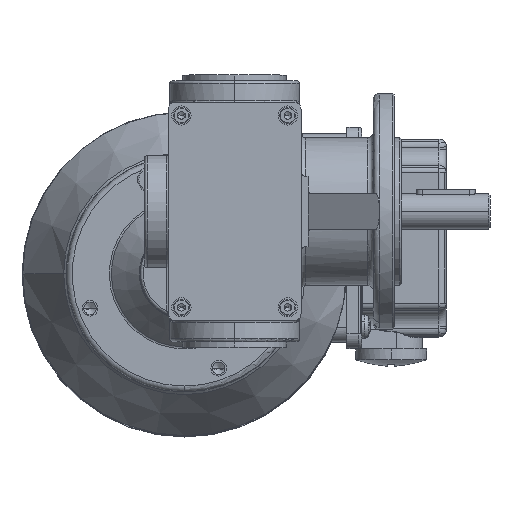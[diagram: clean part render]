
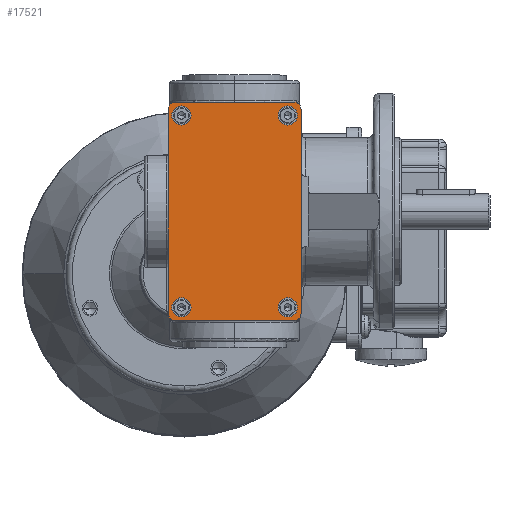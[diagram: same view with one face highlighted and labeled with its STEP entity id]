
A CAD part, top view. The second image highlights one B-rep face of the part: STEP entity #17521.
In plain terms, the highlighted planar face has unit normal (0, 0, 1) as drawn and (0, 1, 0) by its records, which use the part's own axes.
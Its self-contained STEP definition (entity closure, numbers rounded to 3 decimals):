
#78 = DIRECTION ( 'NONE',  ( 0., 1., 0. ) ) ;
#225 = AXIS2_PLACEMENT_3D ( 'NONE', #11180, #78, #6919 ) ;
#540 = EDGE_CURVE ( 'NONE', #19225, #15173, #10774, .T. ) ;
#562 = ORIENTED_EDGE ( 'NONE', *, *, #10822, .F. ) ;
#684 = CIRCLE ( 'NONE', #13771, 2.5 ) ;
#803 = CARTESIAN_POINT ( 'NONE',  ( -32.5, 8., 14.75 ) ) ;
#845 = EDGE_LOOP ( 'NONE', ( #23245, #998 ) ) ;
#998 = ORIENTED_EDGE ( 'NONE', *, *, #18178, .F. ) ;
#1079 = VERTEX_POINT ( 'NONE', #4732 ) ;
#1103 = CARTESIAN_POINT ( 'NONE',  ( -34.5, 8., -22.5 ) ) ;
#1280 = ORIENTED_EDGE ( 'NONE', *, *, #540, .T. ) ;
#1572 = FACE_OUTER_BOUND ( 'NONE', #27368, .T. ) ;
#2012 = AXIS2_PLACEMENT_3D ( 'NONE', #4451, #17734, #25689 ) ;
#2135 = DIRECTION ( 'NONE',  ( 0., 1., 0. ) ) ;
#2426 = CARTESIAN_POINT ( 'NONE',  ( -32.5, 8., 18. ) ) ;
#2534 = VERTEX_POINT ( 'NONE', #3854 ) ;
#2872 = CARTESIAN_POINT ( 'NONE',  ( 32.5, 8., -21.25 ) ) ;
#3075 = VECTOR ( 'NONE', #19803, 1000. ) ;
#3285 = EDGE_CURVE ( 'NONE', #6180, #16476, #8716, .T. ) ;
#3341 = CIRCLE ( 'NONE', #7058, 3.25 ) ;
#3394 = VERTEX_POINT ( 'NONE', #4769 ) ;
#3468 = FACE_BOUND ( 'NONE', #845, .T. ) ;
#3851 = AXIS2_PLACEMENT_3D ( 'NONE', #18496, #23170, #5071 ) ;
#3854 = CARTESIAN_POINT ( 'NONE',  ( -32.5, 8., -14.75 ) ) ;
#4044 = LINE ( 'NONE', #16904, #8741 ) ;
#4159 = EDGE_LOOP ( 'NONE', ( #27347, #9096 ) ) ;
#4434 = VERTEX_POINT ( 'NONE', #2872 ) ;
#4451 = CARTESIAN_POINT ( 'NONE',  ( -32.5, 8., 18. ) ) ;
#4467 = VERTEX_POINT ( 'NONE', #26243 ) ;
#4732 = CARTESIAN_POINT ( 'NONE',  ( 32.5, 8., 14.75 ) ) ;
#4769 = CARTESIAN_POINT ( 'NONE',  ( -32.5, 8., -21.25 ) ) ;
#4775 = EDGE_CURVE ( 'NONE', #22119, #26213, #11183, .T. ) ;
#4811 = VERTEX_POINT ( 'NONE', #803 ) ;
#4842 = DIRECTION ( 'NONE',  ( 0., 1., 0. ) ) ;
#5071 = DIRECTION ( 'NONE',  ( 0., 0., 1. ) ) ;
#5252 = EDGE_CURVE ( 'NONE', #26213, #6180, #17492, .T. ) ;
#5925 = CIRCLE ( 'NONE', #26026, 3.25 ) ;
#6007 = CARTESIAN_POINT ( 'NONE',  ( 32.5, 8., 18. ) ) ;
#6180 = VERTEX_POINT ( 'NONE', #14244 ) ;
#6340 = DIRECTION ( 'NONE',  ( 0., 0., 1. ) ) ;
#6375 = CIRCLE ( 'NONE', #25050, 3.25 ) ;
#6412 = DIRECTION ( 'NONE',  ( 0., 0., 1. ) ) ;
#6555 = DIRECTION ( 'NONE',  ( 0., 1., 0. ) ) ;
#6637 = ORIENTED_EDGE ( 'NONE', *, *, #13871, .T. ) ;
#6919 = DIRECTION ( 'NONE',  ( 0., 0., 1. ) ) ;
#7058 = AXIS2_PLACEMENT_3D ( 'NONE', #25467, #12042, #10148 ) ;
#7114 = AXIS2_PLACEMENT_3D ( 'NONE', #2426, #2135, #6340 ) ;
#8312 = ORIENTED_EDGE ( 'NONE', *, *, #18296, .T. ) ;
#8716 = LINE ( 'NONE', #28878, #3075 ) ;
#8734 = EDGE_CURVE ( 'NONE', #20675, #4434, #6375, .T. ) ;
#8741 = VECTOR ( 'NONE', #23457, 1000. ) ;
#8980 = CARTESIAN_POINT ( 'NONE',  ( 37., 8., -22.5 ) ) ;
#9073 = CARTESIAN_POINT ( 'NONE',  ( 32.5, 8., -18. ) ) ;
#9096 = ORIENTED_EDGE ( 'NONE', *, *, #11074, .F. ) ;
#10148 = DIRECTION ( 'NONE',  ( 0., 0., 1. ) ) ;
#10334 = DIRECTION ( 'NONE',  ( 0., 0., 1. ) ) ;
#10472 = ORIENTED_EDGE ( 'NONE', *, *, #12388, .F. ) ;
#10524 = EDGE_CURVE ( 'NONE', #24139, #19225, #684, .T. ) ;
#10543 = DIRECTION ( 'NONE',  ( 0., 1., 0. ) ) ;
#10632 = AXIS2_PLACEMENT_3D ( 'NONE', #9073, #13630, #18118 ) ;
#10774 = LINE ( 'NONE', #17342, #27844 ) ;
#10822 = EDGE_CURVE ( 'NONE', #24456, #4811, #15476, .T. ) ;
#11074 = EDGE_CURVE ( 'NONE', #1079, #21592, #3341, .T. ) ;
#11180 = CARTESIAN_POINT ( 'NONE',  ( 34.5, 8., 20. ) ) ;
#11183 = LINE ( 'NONE', #8980, #19555 ) ;
#11309 = CARTESIAN_POINT ( 'NONE',  ( -37., 8., 20. ) ) ;
#12042 = DIRECTION ( 'NONE',  ( 0., 1., 0. ) ) ;
#12388 = EDGE_CURVE ( 'NONE', #4811, #24456, #15994, .T. ) ;
#12887 = CARTESIAN_POINT ( 'NONE',  ( -32.5, 8., -18. ) ) ;
#12977 = DIRECTION ( 'NONE',  ( 1., 0., 0. ) ) ;
#13032 = EDGE_CURVE ( 'NONE', #16476, #4467, #15576, .T. ) ;
#13630 = DIRECTION ( 'NONE',  ( 0., 1., 0. ) ) ;
#13771 = AXIS2_PLACEMENT_3D ( 'NONE', #23507, #6555, #6412 ) ;
#13801 = CARTESIAN_POINT ( 'NONE',  ( 37., 8., -20. ) ) ;
#13871 = EDGE_CURVE ( 'NONE', #15173, #22119, #19775, .T. ) ;
#14086 = CARTESIAN_POINT ( 'NONE',  ( 32.5, 8., -14.75 ) ) ;
#14175 = DIRECTION ( 'NONE',  ( 0., 0., 1. ) ) ;
#14244 = CARTESIAN_POINT ( 'NONE',  ( 34.5, 8., -22.5 ) ) ;
#14374 = CIRCLE ( 'NONE', #10632, 3.25 ) ;
#14377 = CARTESIAN_POINT ( 'NONE',  ( 32.5, 8., 21.25 ) ) ;
#14948 = DIRECTION ( 'NONE',  ( 0., 0., 1. ) ) ;
#15173 = VERTEX_POINT ( 'NONE', #16024 ) ;
#15476 = CIRCLE ( 'NONE', #2012, 3.25 ) ;
#15576 = CIRCLE ( 'NONE', #22074, 2.5 ) ;
#15710 = ORIENTED_EDGE ( 'NONE', *, *, #8734, .F. ) ;
#15957 = CIRCLE ( 'NONE', #25274, 3.25 ) ;
#15994 = CIRCLE ( 'NONE', #7114, 3.25 ) ;
#16024 = CARTESIAN_POINT ( 'NONE',  ( 34.5, 8., 22.5 ) ) ;
#16476 = VERTEX_POINT ( 'NONE', #1103 ) ;
#16758 = FACE_BOUND ( 'NONE', #4159, .T. ) ;
#16899 = PLANE ( 'NONE',  #22673 ) ;
#16904 = CARTESIAN_POINT ( 'NONE',  ( -37., 8., -22.5 ) ) ;
#17342 = CARTESIAN_POINT ( 'NONE',  ( -37., 8., 22.5 ) ) ;
#17492 = CIRCLE ( 'NONE', #25903, 2.5 ) ;
#17521 = ADVANCED_FACE ( 'NONE', ( #26112, #16758, #25955, #3468, #1572 ), #16899, .T. ) ;
#17734 = DIRECTION ( 'NONE',  ( 0., 1., 0. ) ) ;
#17880 = DIRECTION ( 'NONE',  ( 0., 0., -1. ) ) ;
#18118 = DIRECTION ( 'NONE',  ( 0., 0., 1. ) ) ;
#18178 = EDGE_CURVE ( 'NONE', #3394, #2534, #5925, .T. ) ;
#18225 = CARTESIAN_POINT ( 'NONE',  ( -32.5, 8., 21.25 ) ) ;
#18296 = EDGE_CURVE ( 'NONE', #4467, #24139, #4044, .T. ) ;
#18496 = CARTESIAN_POINT ( 'NONE',  ( -32.5, 8., -18. ) ) ;
#19150 = ORIENTED_EDGE ( 'NONE', *, *, #3285, .T. ) ;
#19225 = VERTEX_POINT ( 'NONE', #26601 ) ;
#19555 = VECTOR ( 'NONE', #17880, 1000. ) ;
#19775 = CIRCLE ( 'NONE', #225, 2.5 ) ;
#19803 = DIRECTION ( 'NONE',  ( -1., 0., 0. ) ) ;
#20675 = VERTEX_POINT ( 'NONE', #14086 ) ;
#21552 = EDGE_LOOP ( 'NONE', ( #562, #10472 ) ) ;
#21592 = VERTEX_POINT ( 'NONE', #14377 ) ;
#21767 = DIRECTION ( 'NONE',  ( 0., 1., 0. ) ) ;
#21836 = ORIENTED_EDGE ( 'NONE', *, *, #10524, .T. ) ;
#21933 = EDGE_CURVE ( 'NONE', #4434, #20675, #14374, .T. ) ;
#22074 = AXIS2_PLACEMENT_3D ( 'NONE', #23484, #28044, #14175 ) ;
#22119 = VERTEX_POINT ( 'NONE', #27461 ) ;
#22512 = CARTESIAN_POINT ( 'NONE',  ( 34.5, 8., -20. ) ) ;
#22673 = AXIS2_PLACEMENT_3D ( 'NONE', #25811, #23752, #10334 ) ;
#23170 = DIRECTION ( 'NONE',  ( 0., 1., 0. ) ) ;
#23245 = ORIENTED_EDGE ( 'NONE', *, *, #28529, .F. ) ;
#23457 = DIRECTION ( 'NONE',  ( 0., 0., 1. ) ) ;
#23484 = CARTESIAN_POINT ( 'NONE',  ( -34.5, 8., -20. ) ) ;
#23507 = CARTESIAN_POINT ( 'NONE',  ( -34.5, 8., 20. ) ) ;
#23752 = DIRECTION ( 'NONE',  ( 0., 1., 0. ) ) ;
#24139 = VERTEX_POINT ( 'NONE', #11309 ) ;
#24278 = ORIENTED_EDGE ( 'NONE', *, *, #5252, .T. ) ;
#24456 = VERTEX_POINT ( 'NONE', #18225 ) ;
#24581 = EDGE_LOOP ( 'NONE', ( #15710, #24930 ) ) ;
#24930 = ORIENTED_EDGE ( 'NONE', *, *, #21933, .F. ) ;
#24997 = DIRECTION ( 'NONE',  ( 0., 0., 1. ) ) ;
#25050 = AXIS2_PLACEMENT_3D ( 'NONE', #28444, #25824, #25974 ) ;
#25274 = AXIS2_PLACEMENT_3D ( 'NONE', #6007, #10543, #14948 ) ;
#25467 = CARTESIAN_POINT ( 'NONE',  ( 32.5, 8., 18. ) ) ;
#25689 = DIRECTION ( 'NONE',  ( 0., 0., 1. ) ) ;
#25787 = CIRCLE ( 'NONE', #3851, 3.25 ) ;
#25811 = CARTESIAN_POINT ( 'NONE',  ( 0., 8., 0. ) ) ;
#25824 = DIRECTION ( 'NONE',  ( 0., 1., 0. ) ) ;
#25903 = AXIS2_PLACEMENT_3D ( 'NONE', #22512, #4842, #24997 ) ;
#25955 = FACE_BOUND ( 'NONE', #21552, .T. ) ;
#25974 = DIRECTION ( 'NONE',  ( 0., 0., 1. ) ) ;
#26000 = ORIENTED_EDGE ( 'NONE', *, *, #13032, .T. ) ;
#26026 = AXIS2_PLACEMENT_3D ( 'NONE', #12887, #21767, #27023 ) ;
#26112 = FACE_BOUND ( 'NONE', #24581, .T. ) ;
#26213 = VERTEX_POINT ( 'NONE', #13801 ) ;
#26243 = CARTESIAN_POINT ( 'NONE',  ( -37., 8., -20. ) ) ;
#26601 = CARTESIAN_POINT ( 'NONE',  ( -34.5, 8., 22.5 ) ) ;
#27023 = DIRECTION ( 'NONE',  ( 0., 0., 1. ) ) ;
#27347 = ORIENTED_EDGE ( 'NONE', *, *, #27913, .F. ) ;
#27368 = EDGE_LOOP ( 'NONE', ( #28744, #24278, #19150, #26000, #8312, #21836, #1280, #6637 ) ) ;
#27461 = CARTESIAN_POINT ( 'NONE',  ( 37., 8., 20. ) ) ;
#27844 = VECTOR ( 'NONE', #12977, 1000. ) ;
#27913 = EDGE_CURVE ( 'NONE', #21592, #1079, #15957, .T. ) ;
#28044 = DIRECTION ( 'NONE',  ( 0., 1., 0. ) ) ;
#28444 = CARTESIAN_POINT ( 'NONE',  ( 32.5, 8., -18. ) ) ;
#28529 = EDGE_CURVE ( 'NONE', #2534, #3394, #25787, .T. ) ;
#28744 = ORIENTED_EDGE ( 'NONE', *, *, #4775, .T. ) ;
#28878 = CARTESIAN_POINT ( 'NONE',  ( -37., 8., -22.5 ) ) ;
